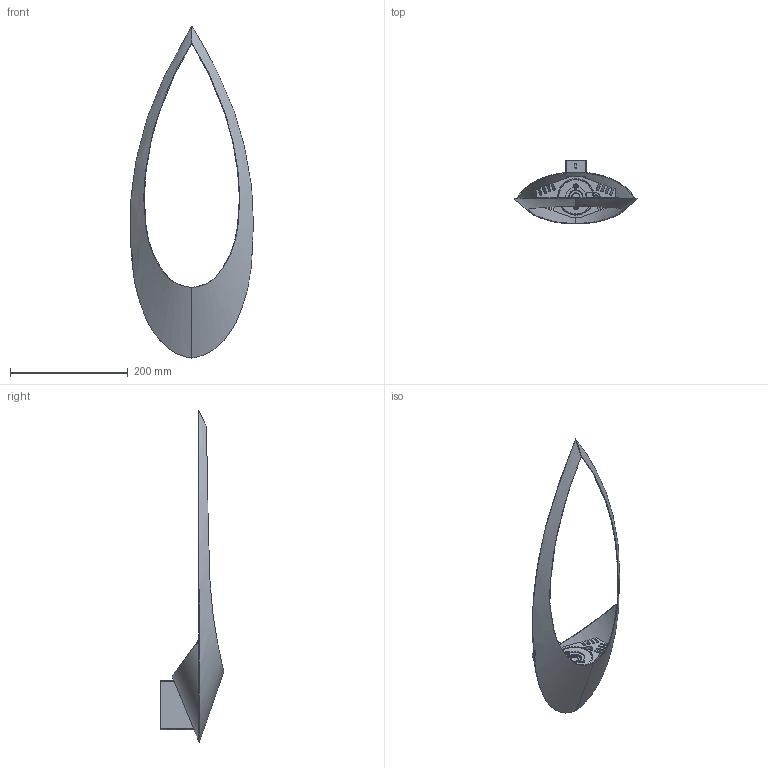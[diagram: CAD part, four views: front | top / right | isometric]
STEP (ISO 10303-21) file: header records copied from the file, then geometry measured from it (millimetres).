
FILE_DESCRIPTION(/* description */ (''),/* implementation_level */ '2;1');
FILE_NAME(/* name */ 'BLUMLE~1',/* time_stamp */ '2017-03-27T15:21:14+02:00',/* author */ (''),/* organization */ (''),/* preprocessor_version */ 'ST-DEVELOPER v15',/* originating_system */ '',/* authorisation */ '');
FILE_SCHEMA (('CONFIG_CONTROL_DESIGN'));
Length unit declared in the file: millimetre
Products named in the file (1): Document
Bounding box: 208.72 x 108.61 x 564.62 mm (x, y, z)
Volume: 183749.5 mm3; surface area: 196923.8 mm2
Topology: 7 solids, 7 shells, 242 faces, 638 edges, 407 vertices
Faces by surface type: bspline 123, plane 119
Entity records: 18553 total; most frequent: CARTESIAN_POINT 14624, ORIENTED_EDGE 1252, EDGE_CURVE 626, VERTEX_POINT 407, B_SPLINE_CURVE_WITH_KNOTS 344, EDGE_LOOP 283, ADVANCED_FACE 242, FACE_OUTER_BOUND 242
